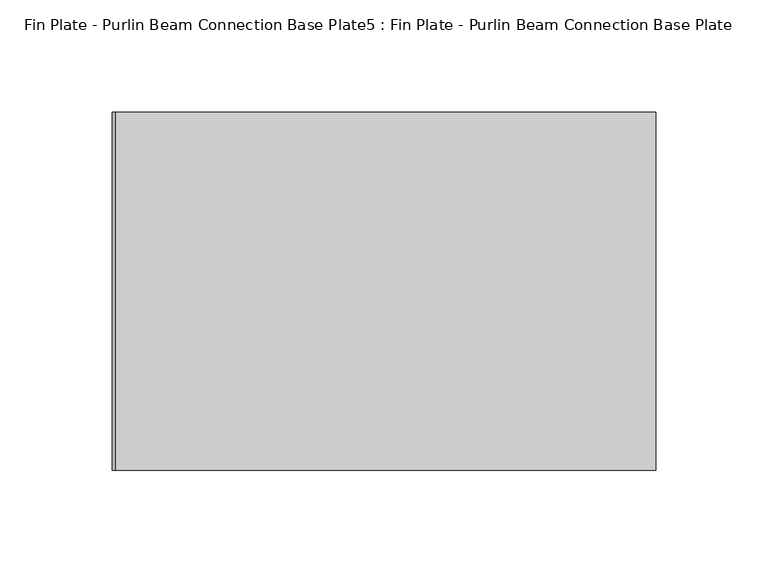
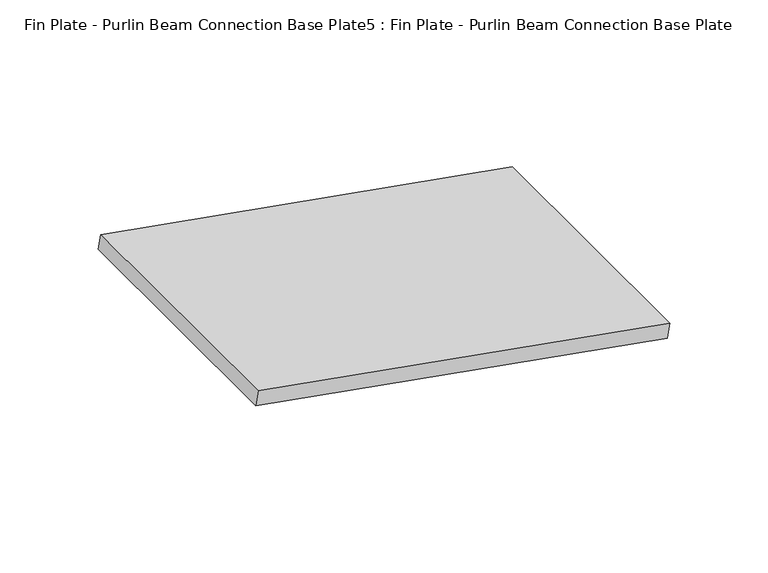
"""IFC4 building model written with IfcOpenShell, lengths in millimetres: proxy geometry, Fin Plate - Purlin Beam Connection Base Plate5 : Fin Plate - Purlin Beam Connection Base Plate."""

from ifc_helpers import new_model, si_unit, frame, origin, place, context, project, spatial, polyline, outline, extrude, source, transform, mapped, element, save


def fin_plate_purlin_beam_connection_base_plate5_fin_plate_4f75a835(model_context):
    return source(origin(), model_context, "Body", "SweptSolid", [
        extrude(outline(polyline([(0.0, -160.0), (0.0, 0.0), (245.0, 0.0), (245.0, -160.0), (0.0, -160.0)])), frame((-34196.7243386, 15752.6229293, 3636.4819028), z_axis=(0.1736481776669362, 0.0, 0.9848077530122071), x_axis=(0.9848077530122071, 0.0, -0.1736481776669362)), (0.0, 0.0, 1.0), 8.8039089),
    ])


if __name__ == "__main__":
    model = new_model("IFC4")
    model_context = context("Model", 3, world=origin())
    ifc_project = project(units=[si_unit("LENGTHUNIT", "METRE", prefix="MILLI")], contexts=[model_context])
    site = spatial("IfcSite", under=ifc_project)
    building = spatial("IfcBuilding", under=site)
    placement = place(None, origin())
    fin_plate_purlin_beam_connection_base_plate5_fin_plate_shape = fin_plate_purlin_beam_connection_base_plate5_fin_plate_4f75a835(model_context)
    element("IfcBuildingElementProxy", 1, Name="Fin Plate - Purlin Beam Connection Base Plate5 : Fin Plate - Purlin Beam Connection Base Plate", ObjectType="Fin Plate - Purlin Beam Connection Base Plate5 : Fin Plate - Purlin Beam Connection Base Plate", at=placement, inside=building, context=model_context, shape_type="MappedRepresentation", body=[
        mapped(fin_plate_purlin_beam_connection_base_plate5_fin_plate_shape, transform((0.0, 0.0, 0.0), x_axis=(1.0, 0.0, 0.0), y_axis=(0.0, 1.0, 0.0), z_axis=(0.0, 0.0, 1.0))),
    ])
    save(model, "model.ifc")
